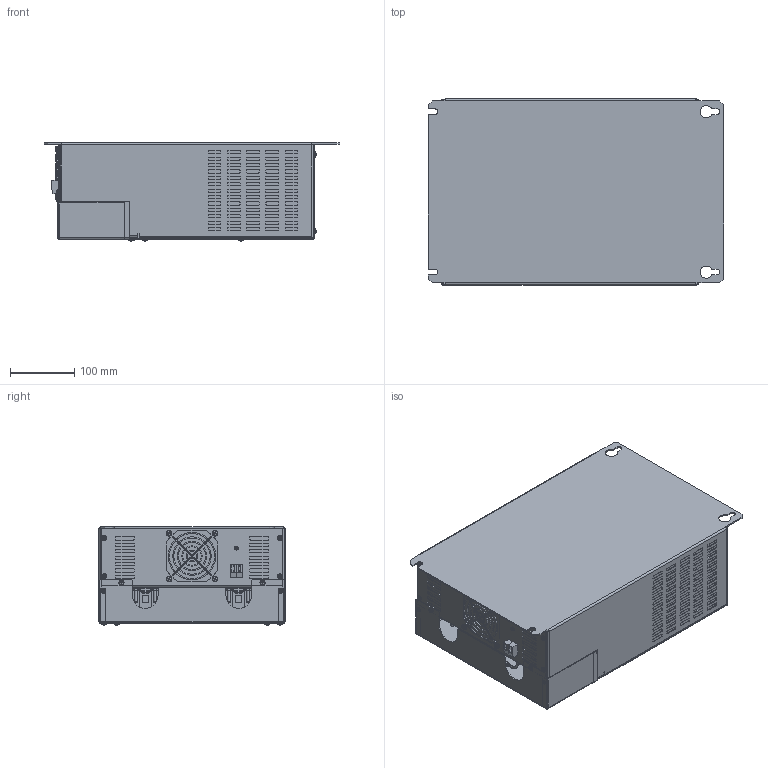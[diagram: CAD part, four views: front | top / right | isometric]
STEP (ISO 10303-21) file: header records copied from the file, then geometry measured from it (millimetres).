
FILE_DESCRIPTION(/* description */ (''),/* implementation_level */ '2;1');
FILE_NAME(/* name */ 'C:\Users\Erika.Jenzer\OneDrive - Schaffner EMV AG\CR_COs\FN5420 IP20 FRAME SIZE D.stp',/* time_stamp */ '2022-03-03T16:28:00+01:00',/* author */ ('erika.jenzer'),/* organization */ (''),/* preprocessor_version */ 'ST-DEVELOPER v18.1',/* originating_system */ 'Autodesk Inventor 2020',/* authorisation */ '');
FILE_SCHEMA (('AUTOMOTIVE_DESIGN { 1 0 10303 214 3 1 1 }'));
Products named in the file (1): FN5420 IP20 FRAME SIZE D
Bounding box: 460 x 290 x 153.05 mm (x, y, z)
Volume: 15896594.9 mm3; surface area: 700163 mm2
Topology: 3 solids, 33 shells, 4612 faces, 12455 edges, 8295 vertices
Faces by surface type: plane 2476, cylinder 1654, cone 270, torus 98, bspline 91, sphere 23
Full cylindrical faces by diameter (mm): 0.01 x2, 0.8 x6, 2 x2, 2.3 x4, 2.4 x2, 2.75 x1, 3 x1, 3.2 x8, 3.242 x8, 3.26 x2, 3.3 x2, 3.4 x3, 3.5 x2, 3.621 x16, 4 x8, 4.3 x4, 4.5 x6, 4.8 x18, 5 x8, 5.2 x2, 5.3 x2, 5.4 x6, 6 x4, 6.5 x2, 6.647 x2, 7 x5, 7.3 x4, 8 x1, 8.5 x2, 9 x4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
Entity records: 168235 total; most frequent: CARTESIAN_POINT 44946, ORIENTED_EDGE 24930, DIRECTION 24864, EDGE_CURVE 12465, AXIS2_PLACEMENT_3D 8679, VERTEX_POINT 8323, LINE 7506, VECTOR 7506
